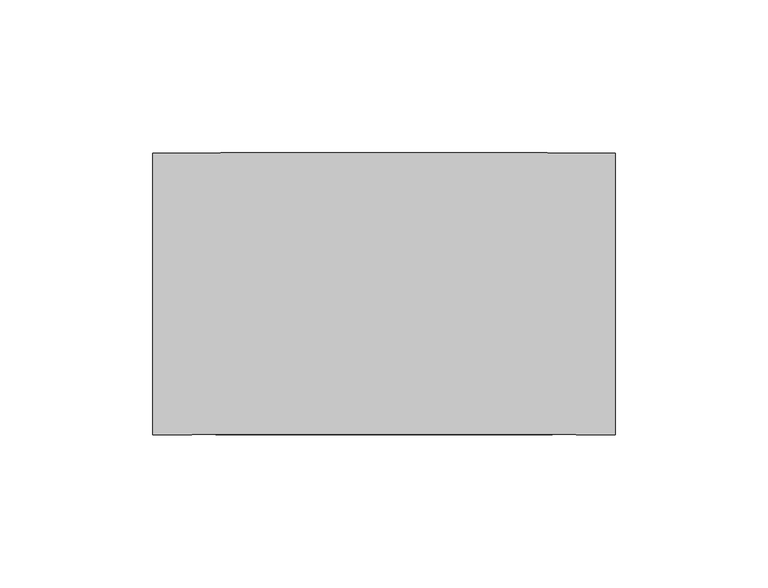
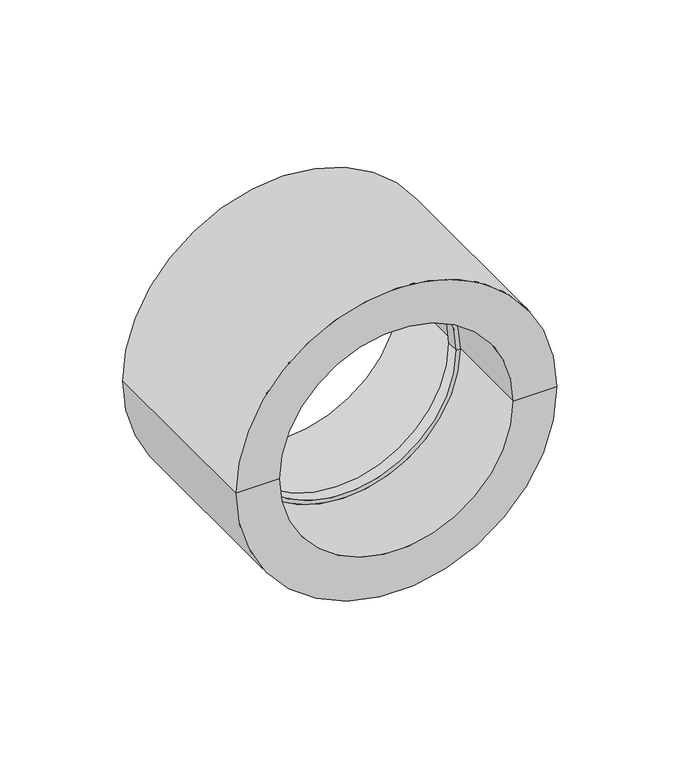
"""IFC4 building model written with IfcOpenShell, lengths in millimetres: pipe fitting geometry, NIRON RED termofusion manguito : Estándar."""

import ifcopenshell
import ifcopenshell.guid

model = None  # the IFC model being written
_history = None  # IfcOwnerHistory: only IFC2X3 demands one
_inside = {}  # id of a spatial element -> (the spatial element, [elements in it])
_under = {}  # id of a project, library or spatial element -> (it, [spatial elements below it])
_declared = {}  # id of a project -> (the project, [libraries it declares])
_typed = {}  # id of a type object -> (the type object, [elements of that type])
_made_of = {}  # id of a material, layer set ... -> (it, [elements and type objects made of it])


def new_model(schema):
    """Start an empty IFC model of exactly this schema.

    Asked for "IFC4X3", IfcOpenShell would pick the latest addendum, in which some entities
    have other attributes; the version numbers below select the first issue.
    IFC2X3 requires an IfcOwnerHistory on every rooted entity: one is made here for all.
    """
    global model, _history
    if schema == "IFC4X3":
        model = ifcopenshell.file(schema_version=(4, 3, 0, 0))
    else:
        model = ifcopenshell.file(schema=schema)
    _inside.clear()
    _under.clear()
    _declared.clear()
    _typed.clear()
    _made_of.clear()
    _history = None
    if model.schema == "IFC2X3":
        org = make("IfcOrganization", Name="unknown")
        user = make(
            "IfcPersonAndOrganization",
            ThePerson=make("IfcPerson", FamilyName="unknown"),
            TheOrganization=org,
        )
        app = make(
            "IfcApplication",
            ApplicationDeveloper=org,
            Version="unknown",
            ApplicationFullName="unknown",
            ApplicationIdentifier="unknown",
        )
        _history = make(
            "IfcOwnerHistory",
            OwningUser=user,
            OwningApplication=app,
            ChangeAction="ADDED",
            CreationDate=0,
        )
    return model


def make(cls, **values):
    """One entity of the class cls with the attributes given. An attribute that is None is left unset."""
    return model.create_entity(
        cls, **{name: value for name, value in values.items() if value is not None}
    )


def rooted(cls, **values):
    """An entity with a GlobalId (a new one), such as an element, a storey or a relation."""
    return make(cls, GlobalId=ifcopenshell.guid.new(), OwnerHistory=_history, **values)


def si_unit(unit_type, name, prefix=None):
    """IfcSIUnit, for example si_unit("LENGTHUNIT", "METRE", prefix="MILLI")."""
    return make("IfcSIUnit", UnitType=unit_type, Prefix=prefix, Name=name)


def assignment(units):
    """IfcUnitAssignment: the units of a project."""
    return None if units is None else make("IfcUnitAssignment", Units=units)


def point(xyz):
    """IfcCartesianPoint."""
    return None if xyz is None else make("IfcCartesianPoint", Coordinates=xyz)


def direction(xyz):
    """IfcDirection."""
    return None if xyz is None else make("IfcDirection", DirectionRatios=xyz)


def frame(location, z_axis=None, x_axis=None):
    """IfcAxis2Placement3D, a coordinate frame: its origin and axes. An axis left out is left unset."""
    return make(
        "IfcAxis2Placement3D",
        Location=point(location),
        Axis=direction(z_axis),
        RefDirection=direction(x_axis),
    )


def origin():
    """The frame at (0, 0, 0) with its axes left unset."""
    return frame((0.0, 0.0, 0.0))


def place(relative_to, where):
    """IfcLocalPlacement: puts the frame where relative to a parent placement (None: the world)."""
    return make(
        "IfcLocalPlacement", PlacementRelTo=relative_to, RelativePlacement=where
    )


def context(
    kind, dimensions, precision=None, world=None, true_north=None, identifier=None
):
    """IfcGeometricRepresentationContext, for example the 3D "Model" context."""
    return make(
        "IfcGeometricRepresentationContext",
        ContextIdentifier=identifier,
        ContextType=kind,
        CoordinateSpaceDimension=dimensions,
        Precision=precision,
        WorldCoordinateSystem=world,
        TrueNorth=true_north,
    )


def project(units=None, contexts=None):
    """IfcProject with its units and contexts."""
    return rooted(
        "IfcProject",
        Name="project",
        RepresentationContexts=contexts,
        UnitsInContext=assignment(units),
    )


def spatial(cls, under=None, at=None, **own):
    """A site, building, storey or space (cls), placed at a placement, below another one or the project."""
    s = rooted(cls, ObjectPlacement=at, **own)
    if under is not None:
        _under.setdefault(under.id(), (under, []))[1].append(s)
    return s


def polyline(points):
    """IfcPolyline through the points."""
    return make("IfcPolyline", Points=[point(p) for p in points])


def circle_curve(where, radius):
    """IfcCircle in the frame where."""
    return make("IfcCircle", Position=where, Radius=radius)


def shape(context_of_items, identifier, shape_type, items):
    """IfcShapeRepresentation: the items that make up one representation, for example the "Body"."""
    return make(
        "IfcShapeRepresentation",
        ContextOfItems=context_of_items,
        RepresentationIdentifier=identifier,
        RepresentationType=shape_type,
        Items=items,
    )


def source(mapping_origin, context_of_items, identifier, shape_type, items):
    """IfcRepresentationMap: a shape defined once, which mapped items show again and again."""
    return make(
        "IfcRepresentationMap",
        MappingOrigin=mapping_origin,
        MappedRepresentation=shape(context_of_items, identifier, shape_type, items),
    )


def transform(
    local_origin,
    x_axis=None,
    y_axis=None,
    z_axis=None,
    scale=None,
    scale2=None,
    scale3=None,
    uniform=True,
):
    """IfcCartesianTransformationOperator3D, or its non-uniform kind. x_axis, y_axis, z_axis: its Axis1, 2, 3."""
    if uniform:
        return make(
            "IfcCartesianTransformationOperator3D",
            Axis1=direction(x_axis),
            Axis2=direction(y_axis),
            LocalOrigin=point(local_origin),
            Scale=scale,
            Axis3=direction(z_axis),
        )
    return make(
        "IfcCartesianTransformationOperator3DnonUniform",
        Axis1=direction(x_axis),
        Axis2=direction(y_axis),
        LocalOrigin=point(local_origin),
        Scale=scale,
        Axis3=direction(z_axis),
        Scale2=scale2,
        Scale3=scale3,
    )


def mapped(mapping_source, mapping_target):
    """IfcMappedItem: shows the shape of a source again, moved by a transform."""
    return make(
        "IfcMappedItem", MappingSource=mapping_source, MappingTarget=mapping_target
    )


def made_of(thing, what):
    """Note that an element or type object is made of a material, layer set ...; save() writes the relation."""
    if what is not None:
        _made_of.setdefault(what.id(), (what, []))[1].append(thing)
    return thing


def element(
    cls,
    number,
    at=None,
    inside=None,
    cuts=None,
    type_object=None,
    material=None,
    context=None,
    identifier="Body",
    shape_type=None,
    held_by="IfcProductDefinitionShape",
    body=None,
    shapes=None,
    **own,
):
    """One element of the class cls, such as IfcWall. Its Tag is "e" and its number.

    at: its placement. inside: the storey or other place that contains it. cuts: it is an
    opening in that element (IfcRelVoidsElement). A single representation is given by context,
    identifier, shape_type and body (its items); several are given by shapes. held_by: the class
    of the entity that holds the representations. save() writes the other relations.
    """
    e = rooted(cls, Tag="e%d" % number, ObjectPlacement=at, **own)
    if body is not None:
        shapes = [shape(context, identifier, shape_type, body)]
    if shapes is not None:
        e.Representation = make(held_by, Representations=shapes)
    if inside is not None:
        _inside.setdefault(inside.id(), (inside, []))[1].append(e)
    if cuts is not None:
        rooted(
            "IfcRelVoidsElement", RelatingBuildingElement=cuts, RelatedOpeningElement=e
        )
    if type_object is not None:
        _typed.setdefault(type_object.id(), (type_object, []))[1].append(e)
    return made_of(e, material)


def aggregate(whole, parts):
    """IfcRelAggregates: a whole, such as a stair, and the parts it consists of."""
    return rooted("IfcRelAggregates", RelatingObject=whole, RelatedObjects=parts)


def save(model, path):
    """Write the relations noted so far, then the file.

    IfcRelAggregates (storeys below a building ...), IfcRelContainedInSpatialStructure (elements
    in a storey), IfcRelDefinesByType, IfcRelAssociatesMaterial and IfcRelDeclares: one each for
    every whole, place, type object, material and project.
    """
    for whole, parts in _under.values():
        aggregate(whole, parts)
    for where, things in _inside.values():
        rooted(
            "IfcRelContainedInSpatialStructure",
            RelatedElements=things,
            RelatingStructure=where,
        )
    for kind, things in _typed.values():
        rooted("IfcRelDefinesByType", RelatedObjects=things, RelatingType=kind)
    for what, things in _made_of.values():
        rooted("IfcRelAssociatesMaterial", RelatedObjects=things, RelatingMaterial=what)
    for by, libraries in _declared.values():
        rooted("IfcRelDeclares", RelatingContext=by, RelatedDefinitions=libraries)
    model.write(path)


def plane_surface(at):
    """IfcPlane: the flat surface through the origin of the frame at, square to its z axis."""
    return make("IfcPlane", Position=at)


def cylinder_surface(at, radius):
    """IfcCylindricalSurface: all points at the distance radius from the z axis of the frame at."""
    return make("IfcCylindricalSurface", Position=at, Radius=radius)


def revolved_surface(curve, axis_point, axis_direction):
    """IfcSurfaceOfRevolution: the curve turned about the line through axis_point along axis_direction."""
    return make(
        "IfcSurfaceOfRevolution",
        SweptCurve=make("IfcArbitraryOpenProfileDef", ProfileType="CURVE", Curve=curve),
        AxisPosition=make("IfcAxis1Placement", Location=point(axis_point), Axis=direction(axis_direction)),
    )


def advanced_brep(points, edges, surfaces, faces):
    """IfcAdvancedBrep: a solid bounded by faces that lie on surfaces and meet in shared edges.

    An edge is (start, end): straight between two places in points (the first is 0);
    or (start, end, curve); or (start, end, curve, False) where it runs against its curve.
    A face is (place in surfaces, loops), or (place, loops, False) where it looks against
    its surface's normal. A loop lists edges by number (the first is 1), with a minus sign
    where the edge is run from its end to its start. The first loop is the outer one.
    """
    corners = [point(p) for p in points]
    vertices = [make("IfcVertexPoint", VertexGeometry=c) for c in corners]
    made = []
    for start, end, *more in edges:
        made.append(
            make(
                "IfcEdgeCurve",
                EdgeStart=vertices[start],
                EdgeEnd=vertices[end],
                EdgeGeometry=more[0] if more else make("IfcPolyline", Points=[corners[start], corners[end]]),
                SameSense=more[1] if len(more) > 1 else True,
            )
        )
    hull = []
    for where, loops, *sense in faces:
        bounds = []
        for j, loop in enumerate(loops):
            ring = [make("IfcOrientedEdge", EdgeElement=made[abs(k) - 1], Orientation=k > 0) for k in loop]
            bounds.append(
                make(
                    "IfcFaceOuterBound" if j == 0 else "IfcFaceBound",
                    Bound=make("IfcEdgeLoop", EdgeList=ring),
                    Orientation=True,
                )
            )
        hull.append(make("IfcAdvancedFace", Bounds=bounds, FaceSurface=surfaces[where], SameSense=sense[0] if sense else True))
    return make("IfcAdvancedBrep", Outer=make("IfcClosedShell", CfsFaces=hull))


def pipe_fitting_2853da05(model_context):
    return source(origin(), model_context, "Body", "AdvancedBrep", [
        advanced_brep(
        [(75.5, 92.0, 0.0), (-75.5, 92.0, 0.0), (-55.0, 92.0, 0.0), (55.0, 92.0, 0.0), (75.5, 0.0, 0.0), (-75.5, 0.0, 0.0), (55.0, 0.0, 0.0), (-55.0, 0.0, 0.0), (55.0, 43.0, 0.0), (-55.0, 43.0, 0.0), (53.0, 43.0, 0.0), (-53.0, 43.0, 0.0), (53.0, 49.0, 0.0), (-53.0, 49.0, 0.0), (55.0, 49.0, 0.0), (-55.0, 49.0, 0.0)],
        [
            (0, 1, circle_curve(frame((0.0, 92.0, 0.0), z_axis=(0.0, 1.0, 0.0), x_axis=(-1.0, 0.0, 0.0)), 75.5)),
            (1, 2),
            (2, 3, circle_curve(frame((0.0, 92.0, 0.0), z_axis=(0.0, -1.0, 0.0), x_axis=(-1.0, 0.0, 0.0)), 55.0)),
            (3, 0),
            (1, 0, circle_curve(frame((0.0, 92.0, 0.0), z_axis=(0.0, 1.0, 0.0), x_axis=(-1.0, 0.0, 0.0)), 75.5)),
            (3, 2, circle_curve(frame((0.0, 92.0, 0.0), z_axis=(0.0, -1.0, 0.0), x_axis=(-1.0, 0.0, 0.0)), 55.0)),
            (4, 5, circle_curve(frame((0.0, 0.0, 0.0), z_axis=(0.0, 1.0, 0.0), x_axis=(-1.0, 0.0, 0.0)), 75.5)),
            (5, 1),
            (0, 4),
            (5, 4, circle_curve(frame((0.0, 0.0, 0.0), z_axis=(0.0, 1.0, 0.0), x_axis=(-1.0, 0.0, 0.0)), 75.5)),
            (6, 7, circle_curve(frame((0.0, 0.0, 0.0), z_axis=(0.0, 1.0, 0.0), x_axis=(-1.0, 0.0, 0.0)), 55.0)),
            (7, 5),
            (4, 6),
            (7, 6, circle_curve(frame((0.0, 0.0, 0.0), z_axis=(0.0, 1.0, 0.0), x_axis=(-1.0, 0.0, 0.0)), 55.0)),
            (8, 9, circle_curve(frame((0.0, 43.0, 0.0), z_axis=(0.0, 1.0, 0.0), x_axis=(-1.0, 0.0, 0.0)), 55.0)),
            (9, 7),
            (6, 8),
            (9, 8, circle_curve(frame((0.0, 43.0, 0.0), z_axis=(0.0, 1.0, 0.0), x_axis=(-1.0, 0.0, 0.0)), 55.0)),
            (10, 11, circle_curve(frame((0.0, 43.0, 0.0), z_axis=(0.0, 1.0, 0.0), x_axis=(-1.0, 0.0, 0.0)), 53.0)),
            (11, 9),
            (8, 10),
            (11, 10, circle_curve(frame((0.0, 43.0, 0.0), z_axis=(0.0, 1.0, 0.0), x_axis=(-1.0, 0.0, 0.0)), 53.0)),
            (12, 13, circle_curve(frame((0.0, 49.0, 0.0), z_axis=(0.0, 1.0, 0.0), x_axis=(-1.0, 0.0, 0.0)), 53.0)),
            (13, 11),
            (10, 12),
            (13, 12, circle_curve(frame((0.0, 49.0, 0.0), z_axis=(0.0, 1.0, 0.0), x_axis=(-1.0, 0.0, 0.0)), 53.0)),
            (14, 15, circle_curve(frame((0.0, 49.0, 0.0), z_axis=(0.0, 1.0, 0.0), x_axis=(-1.0, 0.0, 0.0)), 55.0)),
            (15, 13),
            (12, 14),
            (15, 14, circle_curve(frame((0.0, 49.0, 0.0), z_axis=(0.0, 1.0, 0.0), x_axis=(-1.0, 0.0, 0.0)), 55.0)),
            (2, 15),
            (14, 3),
        ],
        [
            plane_surface(frame((0.0, 92.0, 0.0), z_axis=(0.0, 1.0, 0.0), x_axis=(-1.0, 0.0, 0.0))),
            cylinder_surface(frame((0.0, 117.0, 0.0), z_axis=(0.0, -1.0, 0.0), x_axis=(-1.0, 0.0, 0.0)), 75.5),
            plane_surface(frame((0.0, 0.0, 0.0), z_axis=(0.0, -1.0, 0.0), x_axis=(-1.0, 0.0, 0.0))),
            revolved_surface(polyline([(-55.0, 0.0, 0.0), (-55.0, 43.0, 0.0)]), (0.0, 117.0, 0.0), (0.0, -1.0, 0.0)),
            plane_surface(frame((0.0, 43.0, 0.0), z_axis=(0.0, -1.0, 0.0), x_axis=(-1.0, 0.0, 0.0))),
            revolved_surface(polyline([(-53.0, 43.0, 0.0), (-53.0, 49.0, 0.0)]), (0.0, 117.0, 0.0), (0.0, -1.0, 0.0)),
            plane_surface(frame((0.0, 49.0, 0.0), z_axis=(0.0, 1.0, 0.0), x_axis=(-1.0, 0.0, 0.0))),
            revolved_surface(polyline([(-55.0, 49.0, 0.0), (-55.0, 92.0, 0.0)]), (0.0, 117.0, 0.0), (0.0, -1.0, 0.0)),
        ],
        [
            (0, [[1, 2, 3, 4]]),
            (0, [[5, -4, 6, -2]]),
            (1, [[7, 8, -1, 9]]),
            (1, [[10, -9, -5, -8]]),
            (2, [[11, 12, -7, 13]]),
            (2, [[14, -13, -10, -12]]),
            (3, [[15, 16, -11, 17]]),
            (3, [[18, -17, -14, -16]]),
            (4, [[19, 20, -15, 21]]),
            (4, [[22, -21, -18, -20]]),
            (5, [[23, 24, -19, 25]]),
            (5, [[26, -25, -22, -24]]),
            (6, [[27, 28, -23, 29]]),
            (6, [[30, -29, -26, -28]]),
            (7, [[-3, 31, -27, 32]]),
            (7, [[-6, -32, -30, -31]]),
        ],
    ),
    ])


if __name__ == "__main__":
    model = new_model("IFC4")
    model_context = context("Model", 3, world=origin())
    ifc_project = project(units=[si_unit("LENGTHUNIT", "METRE", prefix="MILLI")], contexts=[model_context])
    site = spatial("IfcSite", under=ifc_project)
    building = spatial("IfcBuilding", under=site)
    placement = place(None, origin())
    pipe_fitting_shape = pipe_fitting_2853da05(model_context)
    element("IfcPipeFitting", 1, ObjectType="NIRON RED termofusion manguito : Estándar", at=placement, inside=building, context=model_context, shape_type="MappedRepresentation", body=[
        mapped(pipe_fitting_shape, transform((0.0, 0.0, 0.0), x_axis=(1.0, 0.0, 0.0), y_axis=(0.0, 1.0, 0.0), z_axis=(0.0, 0.0, 1.0))),
    ])
    save(model, "model.ifc")
